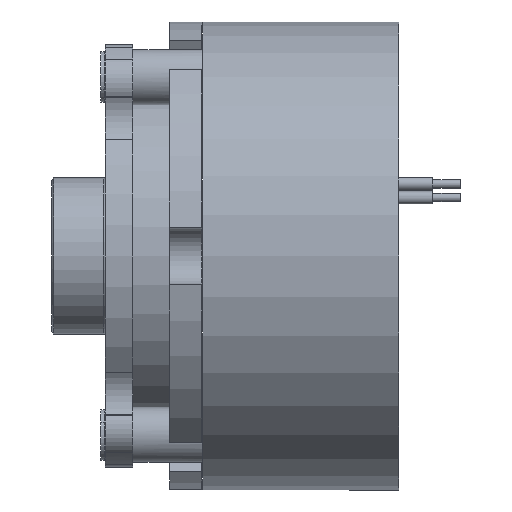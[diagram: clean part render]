
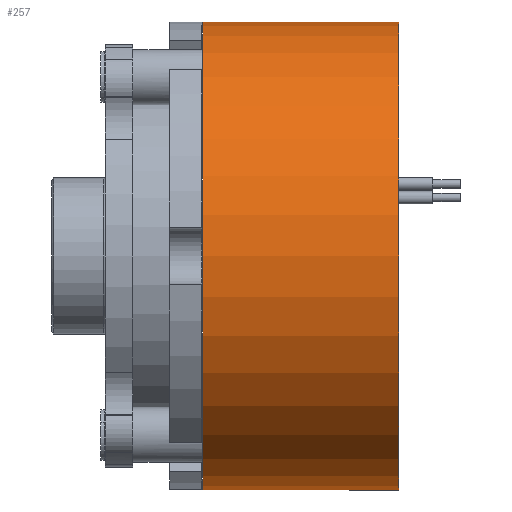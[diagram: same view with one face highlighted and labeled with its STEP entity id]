
A CAD part, front view. The second image highlights one B-rep face of the part: STEP entity #257.
In plain terms, the highlighted cylindrical face has radius 25.5 mm (diameter 51 mm), a partial arc.
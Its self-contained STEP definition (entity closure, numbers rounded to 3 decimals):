
#101 = CYLINDRICAL_SURFACE ( 'NONE', #1391, 25.5 ) ;
#102 = CARTESIAN_POINT ( 'NONE',  ( 0., 0., 0. ) ) ;
#216 = CARTESIAN_POINT ( 'NONE',  ( 21.4, 0., 25.5 ) ) ;
#257 = ADVANCED_FACE ( 'NONE', ( #3587 ), #101, .T. ) ;
#610 = CARTESIAN_POINT ( 'NONE',  ( 0., 0., -25.5 ) ) ;
#611 = DIRECTION ( 'NONE',  ( -1., 0., 0. ) ) ;
#807 = VECTOR ( 'NONE', #1959, 1000. ) ;
#955 = CIRCLE ( 'NONE', #2735, 25.5 ) ;
#983 = VECTOR ( 'NONE', #4401, 1000. ) ;
#1335 = DIRECTION ( 'NONE',  ( -1., 0., 0. ) ) ;
#1363 = VERTEX_POINT ( 'NONE', #216 ) ;
#1391 = AXIS2_PLACEMENT_3D ( 'NONE', #1760, #1335, #2060 ) ;
#1619 = AXIS2_PLACEMENT_3D ( 'NONE', #2470, #611, #3904 ) ;
#1760 = CARTESIAN_POINT ( 'NONE',  ( 0., 0., 0. ) ) ;
#1959 = DIRECTION ( 'NONE',  ( -1., 0., 0. ) ) ;
#2054 = CARTESIAN_POINT ( 'NONE',  ( 21.4, 0., -25.5 ) ) ;
#2060 = DIRECTION ( 'NONE',  ( 0., 0., 1. ) ) ;
#2152 = CIRCLE ( 'NONE', #1619, 25.5 ) ;
#2160 = VERTEX_POINT ( 'NONE', #610 ) ;
#2218 = VERTEX_POINT ( 'NONE', #3795 ) ;
#2318 = DIRECTION ( 'NONE',  ( -1., 0., 0. ) ) ;
#2470 = CARTESIAN_POINT ( 'NONE',  ( 21.4, 0., 0. ) ) ;
#2475 = ORIENTED_EDGE ( 'NONE', *, *, #3166, .F. ) ;
#2525 = EDGE_CURVE ( 'NONE', #2160, #2218, #955, .T. ) ;
#2537 = ORIENTED_EDGE ( 'NONE', *, *, #2824, .T. ) ;
#2596 = VERTEX_POINT ( 'NONE', #2054 ) ;
#2735 = AXIS2_PLACEMENT_3D ( 'NONE', #102, #2318, #4502 ) ;
#2824 = EDGE_CURVE ( 'NONE', #1363, #2218, #4505, .T. ) ;
#2890 = EDGE_LOOP ( 'NONE', ( #2475, #4177, #2537, #3387 ) ) ;
#3166 = EDGE_CURVE ( 'NONE', #2596, #2160, #3899, .T. ) ;
#3387 = ORIENTED_EDGE ( 'NONE', *, *, #2525, .F. ) ;
#3388 = CARTESIAN_POINT ( 'NONE',  ( 0., 0., 25.5 ) ) ;
#3587 = FACE_OUTER_BOUND ( 'NONE', #2890, .T. ) ;
#3795 = CARTESIAN_POINT ( 'NONE',  ( 0., 0., 25.5 ) ) ;
#3899 = LINE ( 'NONE', #4775, #983 ) ;
#3904 = DIRECTION ( 'NONE',  ( 0., 0., 1. ) ) ;
#4054 = EDGE_CURVE ( 'NONE', #2596, #1363, #2152, .T. ) ;
#4177 = ORIENTED_EDGE ( 'NONE', *, *, #4054, .T. ) ;
#4401 = DIRECTION ( 'NONE',  ( -1., 0., 0. ) ) ;
#4502 = DIRECTION ( 'NONE',  ( 0., 0., 1. ) ) ;
#4505 = LINE ( 'NONE', #3388, #807 ) ;
#4775 = CARTESIAN_POINT ( 'NONE',  ( 0., 0., -25.5 ) ) ;
